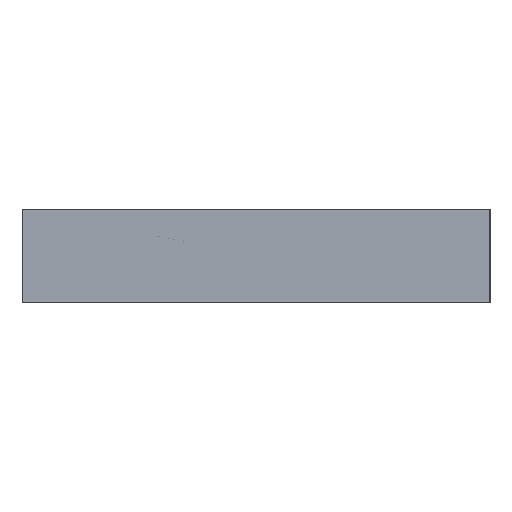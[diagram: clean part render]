
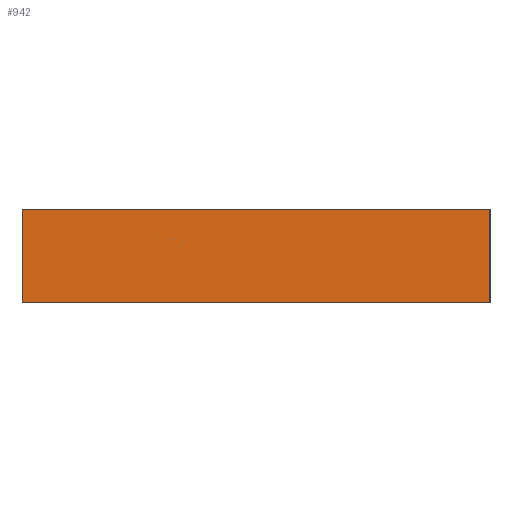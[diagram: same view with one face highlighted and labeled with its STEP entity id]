
A CAD part, left-side view. The second image highlights one B-rep face of the part: STEP entity #942.
In plain terms, the highlighted planar face has unit normal (-1, 0, 0).
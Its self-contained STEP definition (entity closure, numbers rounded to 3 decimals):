
#16 = LINE ( 'NONE', #265, #211 ) ;
#34 = ORIENTED_EDGE ( 'NONE', *, *, #589, .T. ) ;
#62 = ORIENTED_EDGE ( 'NONE', *, *, #845, .T. ) ;
#93 = DIRECTION ( 'NONE',  ( 0., 0., 1. ) ) ;
#105 = VERTEX_POINT ( 'NONE', #962 ) ;
#190 = ORIENTED_EDGE ( 'NONE', *, *, #1044, .F. ) ;
#192 = VECTOR ( 'NONE', #884, 1000. ) ;
#211 = VECTOR ( 'NONE', #836, 1000. ) ;
#219 = VECTOR ( 'NONE', #93, 1000. ) ;
#265 = CARTESIAN_POINT ( 'NONE',  ( -45., -25., 0. ) ) ;
#366 = CARTESIAN_POINT ( 'NONE',  ( -45., 25., -10. ) ) ;
#391 = VERTEX_POINT ( 'NONE', #477 ) ;
#418 = CARTESIAN_POINT ( 'NONE',  ( -45., -25., -10. ) ) ;
#437 = EDGE_LOOP ( 'NONE', ( #936, #34, #62, #190 ) ) ;
#450 = DIRECTION ( 'NONE',  ( 0., 0., 1. ) ) ;
#468 = AXIS2_PLACEMENT_3D ( 'NONE', #366, #928, #450 ) ;
#477 = CARTESIAN_POINT ( 'NONE',  ( -45., 25., -10. ) ) ;
#513 = CARTESIAN_POINT ( 'NONE',  ( -45., -25., -10. ) ) ;
#552 = VERTEX_POINT ( 'NONE', #513 ) ;
#579 = DIRECTION ( 'NONE',  ( 0., -1., 0. ) ) ;
#589 = EDGE_CURVE ( 'NONE', #552, #105, #628, .T. ) ;
#628 = LINE ( 'NONE', #418, #192 ) ;
#631 = VERTEX_POINT ( 'NONE', #874 ) ;
#657 = CARTESIAN_POINT ( 'NONE',  ( -45., 25., -10. ) ) ;
#664 = CARTESIAN_POINT ( 'NONE',  ( -45., 25., -10. ) ) ;
#681 = LINE ( 'NONE', #664, #219 ) ;
#713 = VECTOR ( 'NONE', #579, 1000. ) ;
#729 = EDGE_CURVE ( 'NONE', #391, #552, #932, .T. ) ;
#770 = PLANE ( 'NONE',  #468 ) ;
#836 = DIRECTION ( 'NONE',  ( 0., 1., 0. ) ) ;
#845 = EDGE_CURVE ( 'NONE', #105, #631, #16, .T. ) ;
#874 = CARTESIAN_POINT ( 'NONE',  ( -45., 25., 0. ) ) ;
#884 = DIRECTION ( 'NONE',  ( 0., 0., 1. ) ) ;
#928 = DIRECTION ( 'NONE',  ( -1., 0., 0. ) ) ;
#932 = LINE ( 'NONE', #657, #713 ) ;
#936 = ORIENTED_EDGE ( 'NONE', *, *, #729, .T. ) ;
#942 = ADVANCED_FACE ( 'NONE', ( #988 ), #770, .T. ) ;
#962 = CARTESIAN_POINT ( 'NONE',  ( -45., -25., 0. ) ) ;
#988 = FACE_OUTER_BOUND ( 'NONE', #437, .T. ) ;
#1044 = EDGE_CURVE ( 'NONE', #391, #631, #681, .T. ) ;
